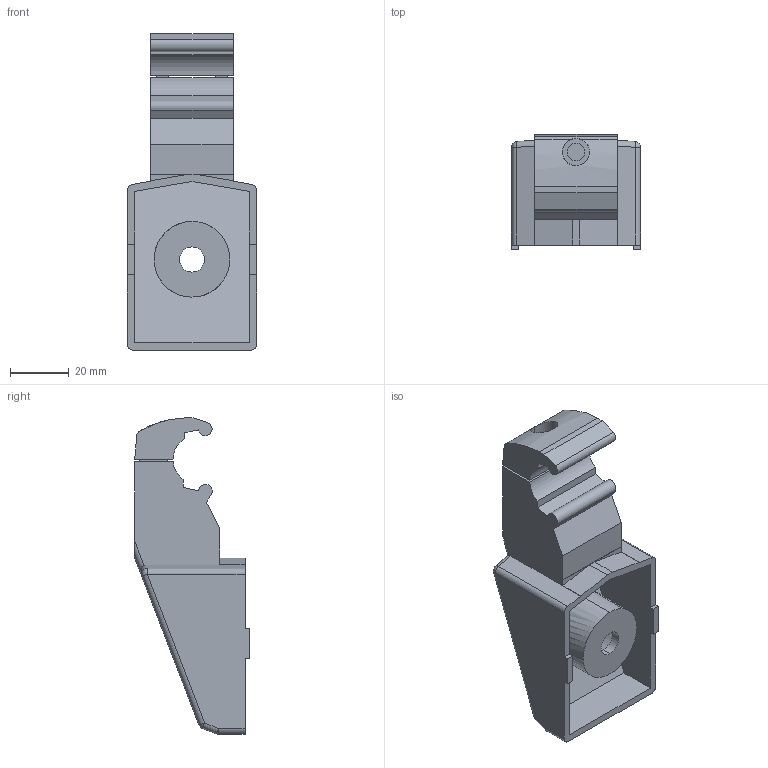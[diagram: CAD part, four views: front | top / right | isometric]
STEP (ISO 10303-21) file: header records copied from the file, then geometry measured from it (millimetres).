
FILE_DESCRIPTION (( 'STEP AP214' ), '1' );
FILE_NAME ('FGRB 16X54C.step', '2017-04-05T07:37:35', ( '' ), ( '' ), 'SwSTEP 2.0', 'SolidWorks 2015', '' );
FILE_SCHEMA (( 'AUTOMOTIVE_DESIGN' ));
Length unit declared in the file: millimetre
Products named in the file (1): FGRB 16X54C
Bounding box: 43.8 x 38.89 x 107.39 mm (x, y, z)
Volume: 49123.4 mm3; surface area: 23929.9 mm2
Topology: 1 solids, 1 shells, 97 faces, 252 edges, 161 vertices
Faces by surface type: plane 61, cylinder 28, sphere 6, bspline 2
Entity records: 3154 total; most frequent: CARTESIAN_POINT 752, ORIENTED_EDGE 504, DIRECTION 471, EDGE_CURVE 252, VECTOR 187, LINE 187, VERTEX_POINT 161, AXIS2_PLACEMENT_3D 142
